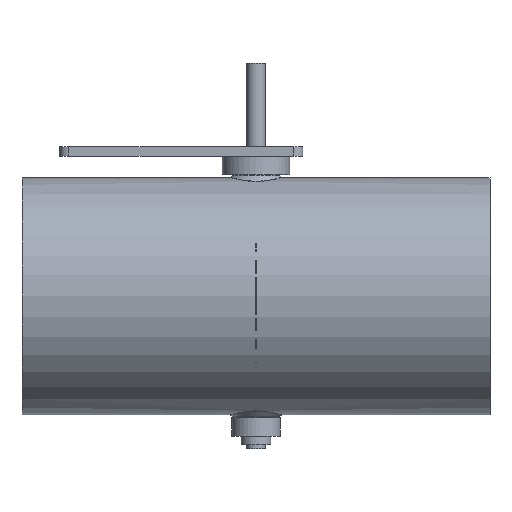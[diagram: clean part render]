
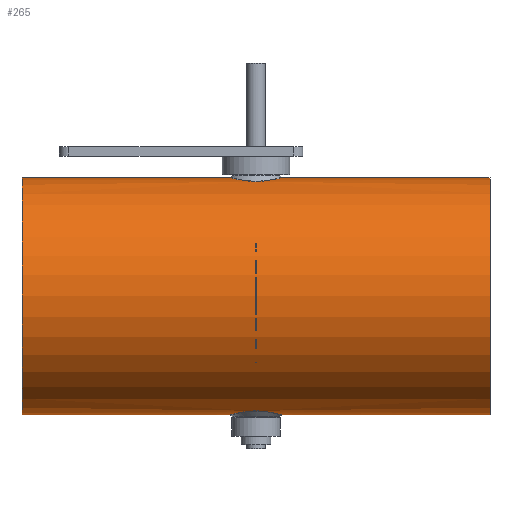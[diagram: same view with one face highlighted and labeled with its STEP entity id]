
A CAD part, top view. The second image highlights one B-rep face of the part: STEP entity #265.
In plain terms, the highlighted cylindrical face has radius 63.3 mm (diameter 126.6 mm), a full revolution.
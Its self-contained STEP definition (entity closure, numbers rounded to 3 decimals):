
#107=B_SPLINE_CURVE_WITH_KNOTS('',3,(#1543,#1544,#1545,#1546,#1547,#1548,
#1549,#1550,#1551,#1552,#1553,#1554,#1555,#1556,#1557,#1558,#1559,#1560,
#1561,#1562,#1563,#1564),.UNSPECIFIED.,.T.,.F.,(2,2,2,2,2,2,2,2,2,2,2,2,
2),(-0.063,0.,0.125,0.25,0.375,0.438,0.5,0.625,0.75,0.875,
0.938,1.,1.125),.UNSPECIFIED.);
#108=B_SPLINE_CURVE_WITH_KNOTS('',3,(#1566,#1567,#1568,#1569,#1570,#1571,
#1572,#1573,#1574,#1575,#1576,#1577,#1578,#1579,#1580,#1581,#1582,#1583,
#1584,#1585,#1586,#1587,#1588,#1589,#1590,#1591),.UNSPECIFIED.,.T.,.F.,(2,
2,2,2,2,2,2,2,2,2,2,2,2,2,2),(-0.063,0.,0.063,0.125,0.25,0.375,
0.5,0.562,0.625,0.687,
0.75,0.875,0.938,1.,1.063),.UNSPECIFIED.);
#215=CYLINDRICAL_SURFACE('',#1066,63.3);
#265=ADVANCED_FACE('',(#383,#384,#385,#386),#215,.T.);
#383=FACE_BOUND('',#511,.T.);
#384=FACE_BOUND('',#512,.T.);
#385=FACE_BOUND('',#513,.T.);
#386=FACE_BOUND('',#514,.T.);
#511=EDGE_LOOP('',(#695));
#512=EDGE_LOOP('',(#696));
#513=EDGE_LOOP('',(#697));
#514=EDGE_LOOP('',(#698));
#695=ORIENTED_EDGE('',*,*,#891,.T.);
#696=ORIENTED_EDGE('',*,*,#892,.T.);
#697=ORIENTED_EDGE('',*,*,#887,.T.);
#698=ORIENTED_EDGE('',*,*,#889,.T.);
#795=VERTEX_POINT('',#1534);
#797=VERTEX_POINT('',#1539);
#799=VERTEX_POINT('',#1565);
#800=VERTEX_POINT('',#1592);
#887=EDGE_CURVE('',#795,#795,#955,.T.);
#889=EDGE_CURVE('',#797,#797,#957,.T.);
#891=EDGE_CURVE('',#799,#799,#107,.T.);
#892=EDGE_CURVE('',#800,#800,#108,.T.);
#955=CIRCLE('',#1060,63.3);
#957=CIRCLE('',#1063,63.3);
#1060=AXIS2_PLACEMENT_3D('',#1533,#1296,#1297);
#1063=AXIS2_PLACEMENT_3D('',#1538,#1302,#1303);
#1066=AXIS2_PLACEMENT_3D('',#1593,#1308,#1309);
#1296=DIRECTION('',(-1.,0.,0.));
#1297=DIRECTION('',(0.,0.,1.));
#1302=DIRECTION('',(1.,0.,0.));
#1303=DIRECTION('',(0.,0.,-1.));
#1308=DIRECTION('',(1.,0.,0.));
#1309=DIRECTION('',(0.,0.,-1.));
#1533=CARTESIAN_POINT('',(125.,-20.8,125.));
#1534=CARTESIAN_POINT('',(125.,-20.8,188.3));
#1538=CARTESIAN_POINT('',(-125.,-20.8,125.));
#1539=CARTESIAN_POINT('',(-125.,-20.8,61.7));
#1543=CARTESIAN_POINT('',(-1.423,-82.012,108.867));
#1544=CARTESIAN_POINT('',(-7.199,-82.427,110.501));
#1545=CARTESIAN_POINT('',(-10.326,-83.122,113.378));
#1546=CARTESIAN_POINT('',(-13.997,-84.024,120.327));
#1547=CARTESIAN_POINT('',(-14.59,-84.217,124.512));
#1548=CARTESIAN_POINT('',(-13.084,-83.803,132.248));
#1549=CARTESIAN_POINT('',(-10.977,-83.202,135.898));
#1550=CARTESIAN_POINT('',(-6.335,-82.435,139.474));
#1551=CARTESIAN_POINT('',(-4.513,-82.208,140.366));
#1552=CARTESIAN_POINT('',(-0.609,-81.993,141.202));
#1553=CARTESIAN_POINT('',(1.444,-82.014,141.127));
#1554=CARTESIAN_POINT('',(7.139,-82.423,139.518));
#1555=CARTESIAN_POINT('',(10.293,-83.115,136.669));
#1556=CARTESIAN_POINT('',(14.002,-84.025,129.678));
#1557=CARTESIAN_POINT('',(14.599,-84.219,125.558));
#1558=CARTESIAN_POINT('',(13.082,-83.802,117.719));
#1559=CARTESIAN_POINT('',(11.036,-83.212,114.149));
#1560=CARTESIAN_POINT('',(6.313,-82.431,110.508));
#1561=CARTESIAN_POINT('',(4.491,-82.207,109.629));
#1562=CARTESIAN_POINT('',(0.628,-81.994,108.802));
#1563=CARTESIAN_POINT('',(-1.423,-82.012,108.867));
#1564=CARTESIAN_POINT('',(-7.199,-82.427,110.501));
#1565=CARTESIAN_POINT('',(-3.348,-82.151,109.411));
#1566=CARTESIAN_POINT('',(-5.274,40.689,109.956));
#1567=CARTESIAN_POINT('',(-1.423,40.412,108.867));
#1568=CARTESIAN_POINT('',(0.619,40.394,108.801));
#1569=CARTESIAN_POINT('',(4.488,40.606,109.627));
#1570=CARTESIAN_POINT('',(6.322,40.833,110.515));
#1571=CARTESIAN_POINT('',(11.011,41.608,114.129));
#1572=CARTESIAN_POINT('',(13.094,42.206,117.776));
#1573=CARTESIAN_POINT('',(14.59,42.616,125.515));
#1574=CARTESIAN_POINT('',(13.988,42.422,129.697));
#1575=CARTESIAN_POINT('',(10.322,41.522,136.623));
#1576=CARTESIAN_POINT('',(7.209,40.831,139.486));
#1577=CARTESIAN_POINT('',(1.465,40.414,141.127));
#1578=CARTESIAN_POINT('',(-0.582,40.393,141.203));
#1579=CARTESIAN_POINT('',(-4.487,40.606,140.376));
#1580=CARTESIAN_POINT('',(-6.307,40.831,139.492));
#1581=CARTESIAN_POINT('',(-9.427,41.346,137.096));
#1582=CARTESIAN_POINT('',(-10.739,41.633,135.582));
#1583=CARTESIAN_POINT('',(-12.76,42.115,132.183));
#1584=CARTESIAN_POINT('',(-13.461,42.306,130.322));
#1585=CARTESIAN_POINT('',(-14.599,42.619,124.445));
#1586=CARTESIAN_POINT('',(-14.013,42.428,120.348));
#1587=CARTESIAN_POINT('',(-11.222,41.743,115.079));
#1588=CARTESIAN_POINT('',(-10.019,41.467,113.533));
#1589=CARTESIAN_POINT('',(-7.018,40.933,110.941));
#1590=CARTESIAN_POINT('',(-5.274,40.689,109.956));
#1591=CARTESIAN_POINT('',(-1.423,40.412,108.867));
#1592=CARTESIAN_POINT('',(-3.348,40.551,109.411));
#1593=CARTESIAN_POINT('',(-125.,-20.8,125.));
